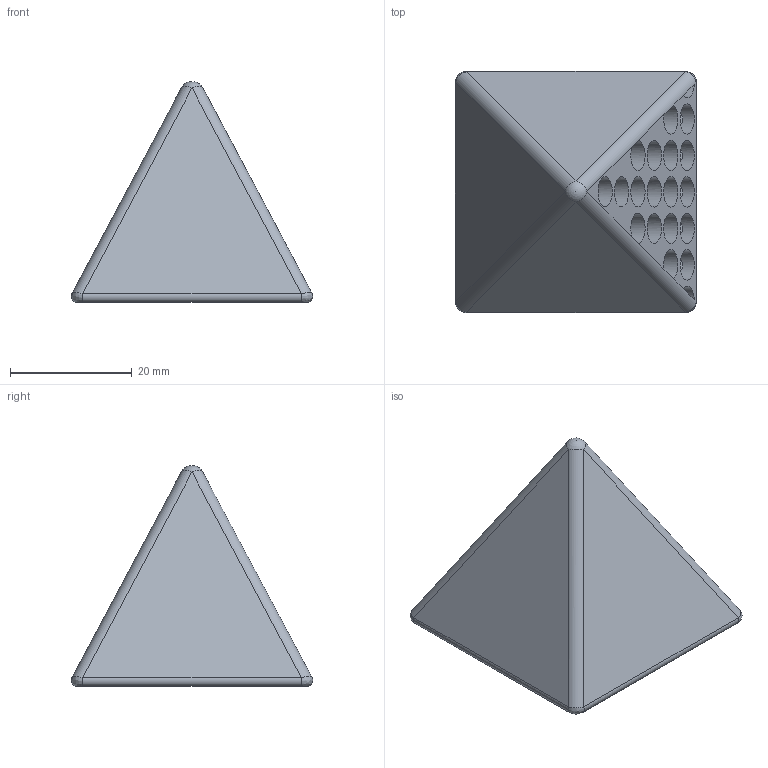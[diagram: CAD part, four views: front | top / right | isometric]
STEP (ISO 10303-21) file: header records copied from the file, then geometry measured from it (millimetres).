
FILE_DESCRIPTION(/* description */ ('','CAx-IF Rec.Pracs.---Representation and Presentation of Product Manufacturing Information (PMI)---4.0---2014-10-13'),/* implementation_level */ '2;1');
FILE_NAME(/* name */ 'Week 5 Project Final.step',/* time_stamp */ '2025-02-25T19:21:07+03:00',/* author */ (''),/* organization */ (''),/* preprocessor_version */ 'ST-DEVELOPER v20',/* originating_system */ 'Autodesk Translation Framework v13.20.0.188',/* authorisation */ '');
FILE_SCHEMA (('AP242_MANAGED_MODEL_BASED_3D_ENGINEERING_MIM_LF { 1 0 10303 442 1 1 4 }'));
Length unit declared in the file: millimetre
Products named in the file (1): Week 5 Project
Bounding box: 39.73 x 39.73 x 36.35 mm (x, y, z)
Volume: 10932.1 mm3; surface area: 8756.3 mm2
Topology: 2 solids, 2 shells, 68 faces, 212 edges, 133 vertices
Faces by surface type: plane 34, cylinder 28, bspline 4, sphere 2
Full cylindrical faces by diameter (mm): 5 x14
Entity records: 2627 total; most frequent: CARTESIAN_POINT 607, DIRECTION 425, ORIENTED_EDGE 418, EDGE_CURVE 209, AXIS2_PLACEMENT_3D 159, VERTEX_POINT 133, LINE 107, VECTOR 107
